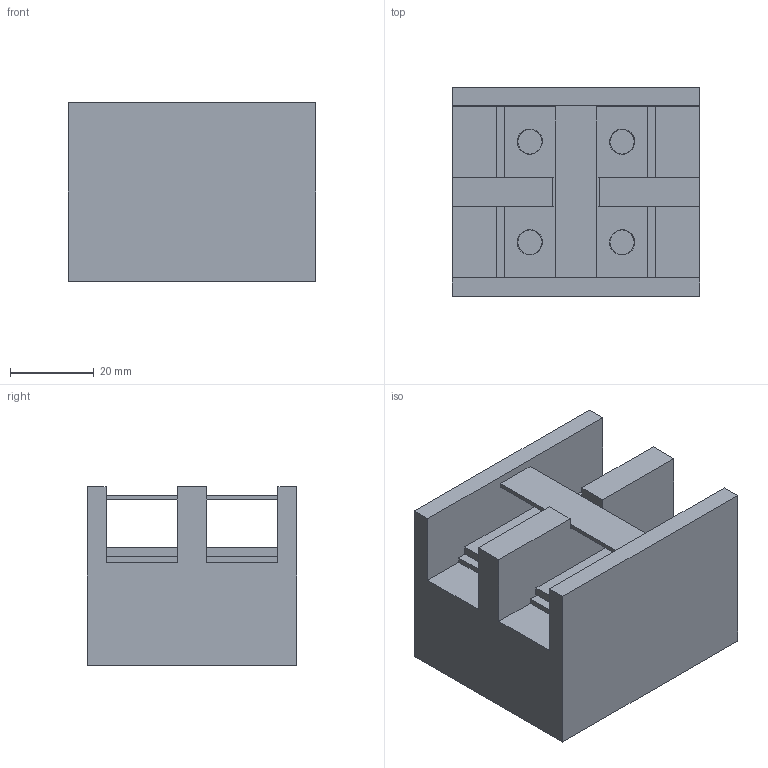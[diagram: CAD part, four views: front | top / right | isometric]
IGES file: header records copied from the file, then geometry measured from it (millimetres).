
Start section:  PTC IGES file: j3-30-55k-te2.igs
Global section: file name: j3-30-55k-te2.igs; native system: Pro/ENGINEER by Parametric Technology Corporation; preprocessor: 2006420; author: JE18792; organization: Unknown; date: 20101129.152804; units: millimetre
Bounding box: 59 x 50 x 42.5 mm (x, y, z)
Volume: 91018.2 mm3; surface area: 21973 mm2
Topology: 1 solids, 1 shells, 76 faces, 212 edges, 140 vertices
Faces by surface type: bspline 76
